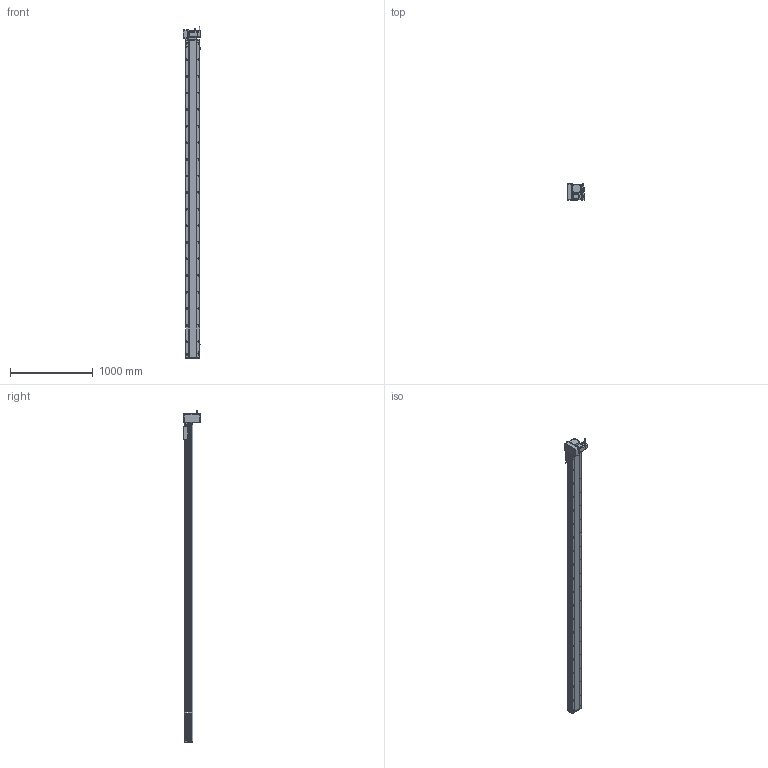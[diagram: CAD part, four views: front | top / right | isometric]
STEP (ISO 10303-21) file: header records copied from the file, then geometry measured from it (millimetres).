
FILE_DESCRIPTION (( 'STEP AP214' ), '1' );
FILE_NAME ('RTB17S-XX-3550-LM-M75-C4.STEP', '2025-12-12T00:52:56', ( '' ), ( '' ), 'SwSTEP 2.0', 'SolidWorks 2018', '' );
FILE_SCHEMA (( 'AUTOMOTIVE_DESIGN' ));
Length unit declared in the file: millimetre
Products named in the file (15): RTB22S-GY-005P^RTB17S-LM-々湍釱蚾饜-750W_RTB17S-XX-XX-LM-M75-C4; RTB17S-賑釱^RTB17S-XX-XX-LM-M75-C4; RTB22S-GY-017P^RTB17S-LM-々湍釱蚾饜-750W_RTB17S-XX-XX-LM-M75-C4; RTB17S-L-007奻裔^RTB17S-XX-XX-LM-M75-C4; EE672^RTB17S-XX-XX-LM-M75-C4; RTB17-R-011菁釱^RTB17S-XX-XX-LM-M75-C4; RTB17S-LM-々湍釱蚾饜-750W^RTB17S-XX-XX-LM-M75-C4; RTB17S-XX-3550-LM-M75-C4; RTB17S-L-001-耜醱啣^RTB17S-XX-XX-LM-M75-C4; RTB22S-GY-018P^RTB17S-LM-々湍釱蚾饜-750W_RTB17S-XX-XX-LM-M75-C4; RTB17S-L-014-T20-P75--々湍釱^RTB17S-LM-々湍釱蚾饜-750W_RTB17S-XX-XX-LM-M75-C4; RTH13-BL-012覜茼え俋离^RTB17S-賑釱_RTB17S-XX-XX-LM-M75-C4; RTB17S-L-004-賑釱^RTB17S-賑釱_RTB17S-XX-XX-LM-M75-C4; RTB22S-GY-008-M75--萇儂啣^RTB17S-LM-々湍釱蚾饜-750W_RTB17S-XX-XX-LM-M75-C4; 750W萇儂^RTB17S-XX-XX-LM-M75-C4
Assembly tree (17 placements, depth 3):
  RTB17S-XX-3550-LM-M75-C4
    RTB17-R-011菁釱^RTB17S-XX-XX-LM-M75-C4
    EE672^RTB17S-XX-XX-LM-M75-C4  x3
    RTB17S-L-001-耜醱啣^RTB17S-XX-XX-LM-M75-C4
    RTB17S-賑釱^RTB17S-XX-XX-LM-M75-C4
      RTB17S-L-004-賑釱^RTB17S-賑釱_RTB17S-XX-XX-LM-M75-C4
      RTH13-BL-012覜茼え俋离^RTB17S-賑釱_RTB17S-XX-XX-LM-M75-C4
    RTB17S-L-007奻裔^RTB17S-XX-XX-LM-M75-C4
    750W萇儂^RTB17S-XX-XX-LM-M75-C4
    RTB17S-LM-々湍釱蚾饜-750W^RTB17S-XX-XX-LM-M75-C4
      RTB17S-L-014-T20-P75--々湍釱^RTB17S-LM-々湍釱蚾饜-750W_RTB17S-XX-XX-LM-M75-C4
      RTB22S-GY-005P^RTB17S-LM-々湍釱蚾饜-750W_RTB17S-XX-XX-LM-M75-C4
      RTB22S-GY-017P^RTB17S-LM-々湍釱蚾饜-750W_RTB17S-XX-XX-LM-M75-C4  x2
      RTB22S-GY-008-M75--萇儂啣^RTB17S-LM-々湍釱蚾饜-750W_RTB17S-XX-XX-LM-M75-C4
      RTB22S-GY-018P^RTB17S-LM-々湍釱蚾饜-750W_RTB17S-XX-XX-LM-M75-C4
Bounding box: 210.4 x 200 x 4002.2 mm (x, y, z)
Volume: 28141594.1 mm3; surface area: 5203158.6 mm2
Topology: 17 solids, 17 shells, 2297 faces, 6484 edges, 4202 vertices
Faces by surface type: plane 996, cylinder 885, bspline 294, cone 110, sphere 8, torus 4
Entity records: 68086 total; most frequent: CARTESIAN_POINT 20348, ORIENTED_EDGE 9812, DIRECTION 9032, EDGE_CURVE 4906, AXIS2_PLACEMENT_3D 3222, VERTEX_POINT 3206, LINE 2588, VECTOR 2588
